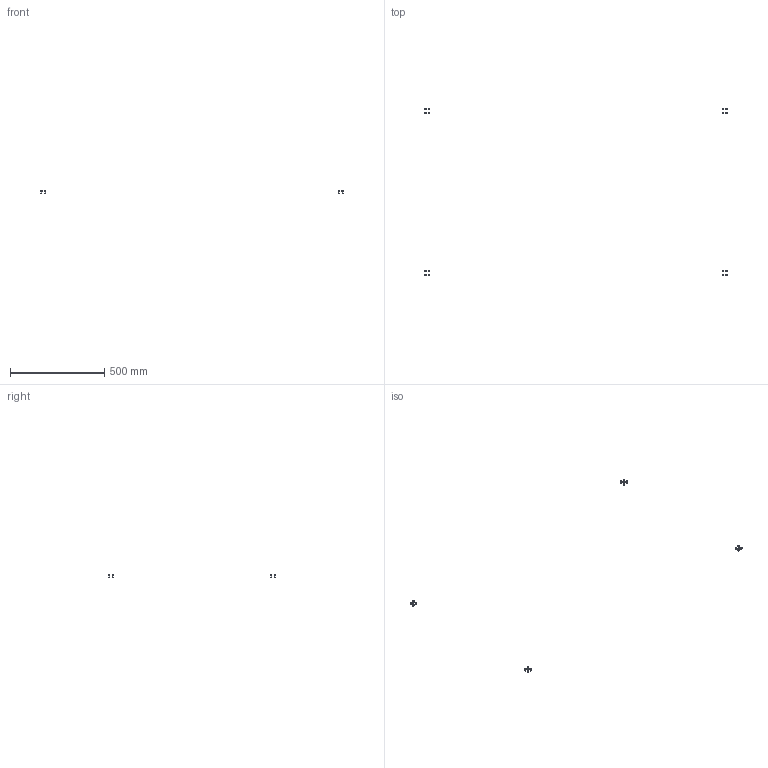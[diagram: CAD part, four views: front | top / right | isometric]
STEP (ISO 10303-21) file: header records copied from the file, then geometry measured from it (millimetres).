
FILE_DESCRIPTION(/* description */ (''),/* implementation_level */ '2;1');
FILE_NAME(/* name */ 'FRAME-~2',/* time_stamp */ '2014-02-14T19:30:59+01:00',/* author */ (''),/* organization */ (''),/* preprocessor_version */ 'ST-DEVELOPER v14',/* originating_system */ '',/* authorisation */ '');
FILE_SCHEMA (('AUTOMOTIVE_DESIGN'));
Length unit declared in the file: millimetre
Products named in the file (2): Document; screw DIN912-like, M5x08
Assembly tree (8 placements, depth 2):
  Document
    screw DIN912-like, M5x08  x8
Bounding box: 1608.48 x 888.5 x 14 mm (x, y, z)
Volume: 6387.6 mm3; surface area: 6320.3 mm2
Topology: 16 solids, 16 shells, 400 faces, 896 edges, 528 vertices
Faces by surface type: plane 240, bspline 160
Entity records: 12309 total; most frequent: CARTESIAN_POINT 5663, B_SPLINE_CURVE_WITH_KNOTS 1134, ORIENTED_EDGE 972, PCURVE 972, DEFINITIONAL_REPRESENTATION 972, SURFACE_CURVE 486, EDGE_CURVE 486, VERTEX_POINT 297
